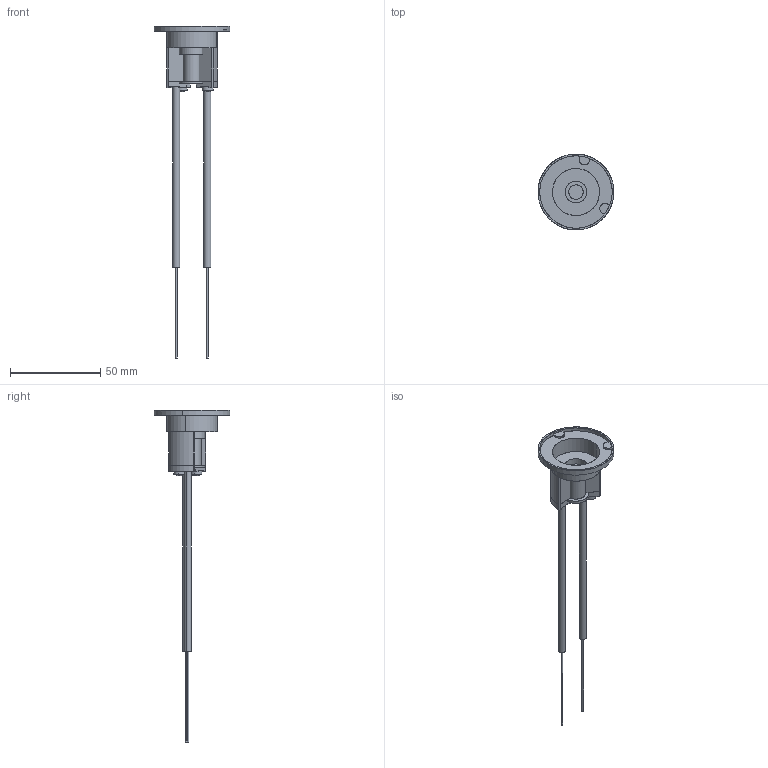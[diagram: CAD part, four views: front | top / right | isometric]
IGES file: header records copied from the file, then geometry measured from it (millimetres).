
Start section: SolidWorks IGES file using analytic representation for surfaces
Global section: file name: C:\Users\Toshiba\Desktop\FR-20PRN.IGS; native system: SolidWorks 2014; preprocessor: SolidWorks 2014; author: Toshiba; date: 160621.094059; units: metre
Bounding box: 41.98 x 41.98 x 183.5 mm (x, y, z)
Surface area: 12364.3 mm2 (no closed solid volume)
Topology: 0 solids, 0 shells, 170 faces, 2480 edges, 2480 vertices
Faces by surface type: bspline 88, revolution 82
